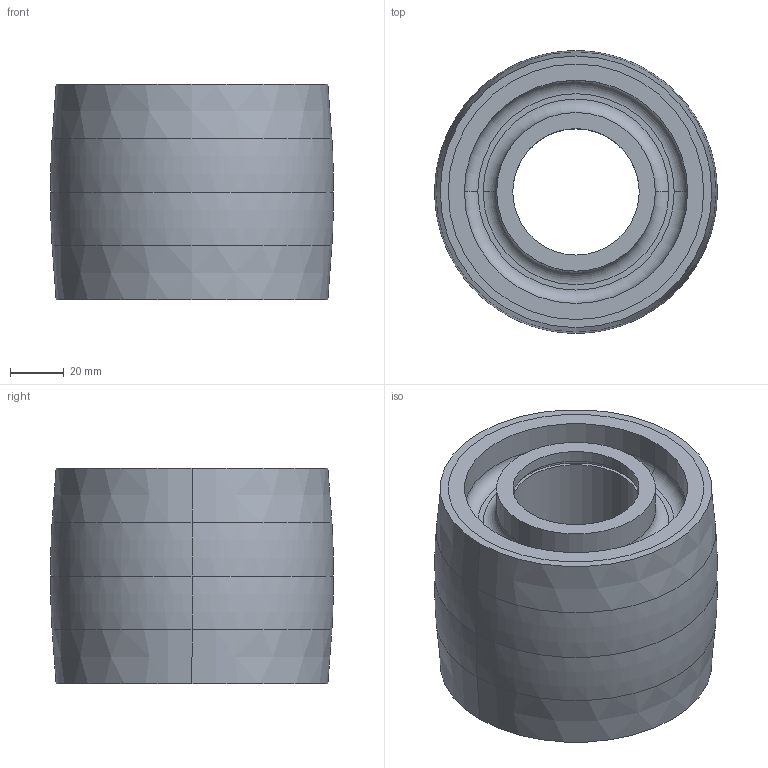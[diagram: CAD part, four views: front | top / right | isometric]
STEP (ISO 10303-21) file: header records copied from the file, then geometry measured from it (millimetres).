
FILE_DESCRIPTION (( 'STEP AP203' ), '1' );
FILE_NAME ('YWSD-2026-03-01-05-02=006 梀踡婦蝶謫.STEP', '2026-07-24T07:37:18', ( 'Windows 蚚誧' ), ( '' ), 'SwSTEP 2.0', 'SolidWorks 2024', '' );
FILE_SCHEMA (( 'CONFIG_CONTROL_DESIGN' ));
Length unit declared in the file: millimetre
Products named in the file (1): YWSD-2026-03-01-05-02=006 涨紧包胶轮
Bounding box: 105.02 x 105.02 x 80 mm (x, y, z)
Volume: 459963.5 mm3; surface area: 110461.2 mm2
Topology: 2 solids, 2 shells, 50 faces, 100 edges, 62 vertices
Faces by surface type: cylinder 22, torus 12, plane 12, cone 4
Entity records: 1409 total; most frequent: DIRECTION 276, CARTESIAN_POINT 213, ORIENTED_EDGE 200, AXIS2_PLACEMENT_3D 125, EDGE_CURVE 100, CIRCLE 74, EDGE_LOOP 62, VERTEX_POINT 62
